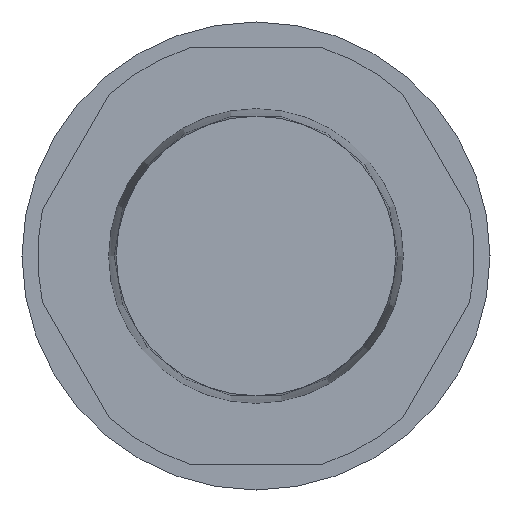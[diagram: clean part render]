
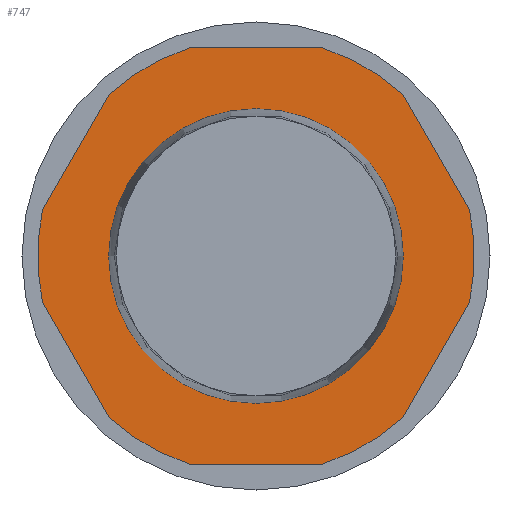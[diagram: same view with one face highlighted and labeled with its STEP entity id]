
A CAD part, left-side view. The second image highlights one B-rep face of the part: STEP entity #747.
In plain terms, the highlighted planar face has unit normal (-1, 0, 0).
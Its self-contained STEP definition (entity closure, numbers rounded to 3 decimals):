
#121=CARTESIAN_POINT('',(-19.25,8.5,0.));
#122=VERTEX_POINT('',#121);
#123=CARTESIAN_POINT('',(-19.25,0.0,0.0));
#124=DIRECTION('',(1.0,0.0,0.0));
#125=DIRECTION('',(0.0,-1.0,0.0));
#126=AXIS2_PLACEMENT_3D('',#123,#124,#125);
#127=CIRCLE('',#126,8.5);
#128=EDGE_CURVE('',#122,#122,#127,.T.);
#460=CARTESIAN_POINT('',(-19.25,12.313,2.673));
#461=VERTEX_POINT('',#460);
#469=CARTESIAN_POINT('',(-19.25,12.313,-2.673));
#470=VERTEX_POINT('',#469);
#477=CARTESIAN_POINT('',(-19.25,0.0,0.0));
#478=DIRECTION('',(1.0,0.0,0.0));
#479=DIRECTION('',(0.0,-1.0,0.0));
#480=AXIS2_PLACEMENT_3D('',#477,#478,#479);
#481=CIRCLE('',#480,12.6);
#482=EDGE_CURVE('',#470,#461,#481,.T.);
#492=CARTESIAN_POINT('',(-19.25,3.842,-12.));
#493=VERTEX_POINT('',#492);
#500=CARTESIAN_POINT('',(-19.25,8.471,-9.327));
#501=VERTEX_POINT('',#500);
#502=CARTESIAN_POINT('',(-19.25,0.0,0.0));
#503=DIRECTION('',(1.0,0.0,0.0));
#504=DIRECTION('',(0.0,-1.0,0.0));
#505=AXIS2_PLACEMENT_3D('',#502,#503,#504);
#506=CIRCLE('',#505,12.6);
#507=EDGE_CURVE('',#493,#501,#506,.T.);
#524=CARTESIAN_POINT('',(-19.25,3.842,12.));
#525=VERTEX_POINT('',#524);
#533=CARTESIAN_POINT('',(-19.25,8.471,9.327));
#534=VERTEX_POINT('',#533);
#541=CARTESIAN_POINT('',(-19.25,0.0,0.0));
#542=DIRECTION('',(1.0,0.0,0.0));
#543=DIRECTION('',(0.0,-1.0,0.0));
#544=AXIS2_PLACEMENT_3D('',#541,#542,#543);
#545=CIRCLE('',#544,12.6);
#546=EDGE_CURVE('',#534,#525,#545,.T.);
#556=CARTESIAN_POINT('',(-19.25,-8.471,-9.327));
#557=VERTEX_POINT('',#556);
#564=CARTESIAN_POINT('',(-19.25,-3.842,-12.));
#565=VERTEX_POINT('',#564);
#566=CARTESIAN_POINT('',(-19.25,0.0,0.0));
#567=DIRECTION('',(1.0,0.0,0.0));
#568=DIRECTION('',(0.0,-1.0,0.0));
#569=AXIS2_PLACEMENT_3D('',#566,#567,#568);
#570=CIRCLE('',#569,12.6);
#571=EDGE_CURVE('',#557,#565,#570,.T.);
#588=CARTESIAN_POINT('',(-19.25,-8.471,9.327));
#589=VERTEX_POINT('',#588);
#597=CARTESIAN_POINT('',(-19.25,-3.842,12.));
#598=VERTEX_POINT('',#597);
#605=CARTESIAN_POINT('',(-19.25,0.0,0.0));
#606=DIRECTION('',(1.0,0.0,0.0));
#607=DIRECTION('',(0.0,-1.0,0.0));
#608=AXIS2_PLACEMENT_3D('',#605,#606,#607);
#609=CIRCLE('',#608,12.6);
#610=EDGE_CURVE('',#598,#589,#609,.T.);
#620=CARTESIAN_POINT('',(-19.25,-12.313,2.673));
#621=VERTEX_POINT('',#620);
#628=CARTESIAN_POINT('',(-19.25,-12.313,-2.673));
#629=VERTEX_POINT('',#628);
#630=CARTESIAN_POINT('',(-19.25,0.0,0.0));
#631=DIRECTION('',(1.0,0.0,0.0));
#632=DIRECTION('',(0.0,-1.0,0.0));
#633=AXIS2_PLACEMENT_3D('',#630,#631,#632);
#634=CIRCLE('',#633,12.6);
#635=EDGE_CURVE('',#621,#629,#634,.T.);
#653=CARTESIAN_POINT('',(-19.25,-12.313,-2.673));
#654=DIRECTION('',(0.0,0.5,-0.866));
#655=VECTOR('',#654,7.684);
#656=LINE('',#653,#655);
#657=EDGE_CURVE('',#629,#557,#656,.T.);
#672=CARTESIAN_POINT('',(-19.25,3.842,12.));
#673=DIRECTION('',(0.0,-1.0,0.0));
#674=VECTOR('',#673,7.684);
#675=LINE('',#672,#674);
#676=EDGE_CURVE('',#525,#598,#675,.T.);
#687=CARTESIAN_POINT('',(-19.25,-3.842,-12.));
#688=DIRECTION('',(0.0,1.0,0.0));
#689=VECTOR('',#688,7.684);
#690=LINE('',#687,#689);
#691=EDGE_CURVE('',#565,#493,#690,.T.);
#706=CARTESIAN_POINT('',(-19.25,12.313,2.673));
#707=DIRECTION('',(0.0,-0.5,0.866));
#708=VECTOR('',#707,7.684);
#709=LINE('',#706,#708);
#710=EDGE_CURVE('',#461,#534,#709,.T.);
#715=CARTESIAN_POINT('',(-19.25,0.,0.));
#716=DIRECTION('',(1.0,0.0,0.0));
#717=DIRECTION('',(0.0,0.0,-1.0));
#718=AXIS2_PLACEMENT_3D('',#715,#716,#717);
#719=PLANE('',#718);
#720=ORIENTED_EDGE('',*,*,#610,.F.);
#721=ORIENTED_EDGE('',*,*,#676,.F.);
#722=ORIENTED_EDGE('',*,*,#546,.F.);
#723=ORIENTED_EDGE('',*,*,#710,.F.);
#724=ORIENTED_EDGE('',*,*,#482,.F.);
#725=CARTESIAN_POINT('',(-19.25,8.471,-9.327));
#726=DIRECTION('',(0.0,0.5,0.866));
#727=VECTOR('',#726,7.684);
#728=LINE('',#725,#727);
#729=EDGE_CURVE('',#501,#470,#728,.T.);
#730=ORIENTED_EDGE('',*,*,#729,.F.);
#731=ORIENTED_EDGE('',*,*,#507,.F.);
#732=ORIENTED_EDGE('',*,*,#691,.F.);
#733=ORIENTED_EDGE('',*,*,#571,.F.);
#734=ORIENTED_EDGE('',*,*,#657,.F.);
#735=ORIENTED_EDGE('',*,*,#635,.F.);
#736=CARTESIAN_POINT('',(-19.25,-8.471,9.327));
#737=DIRECTION('',(0.0,-0.5,-0.866));
#738=VECTOR('',#737,7.684);
#739=LINE('',#736,#738);
#740=EDGE_CURVE('',#589,#621,#739,.T.);
#741=ORIENTED_EDGE('',*,*,#740,.F.);
#742=EDGE_LOOP('',(#720,#721,#722,#723,#724,#730,#731,#732,#733,#734,#735,#741));
#743=FACE_OUTER_BOUND('',#742,.T.);
#744=ORIENTED_EDGE('',*,*,#128,.T.);
#745=EDGE_LOOP('',(#744));
#746=FACE_BOUND('',#745,.T.);
#747=ADVANCED_FACE('',(#743,#746),#719,.F.);
